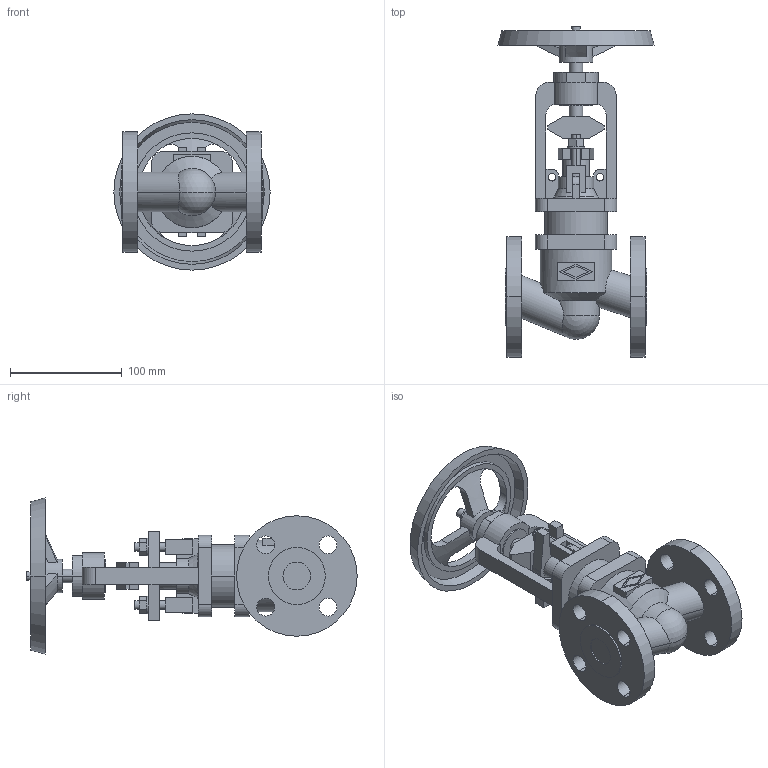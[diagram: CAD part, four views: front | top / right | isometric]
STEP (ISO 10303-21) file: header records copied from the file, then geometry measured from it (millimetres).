
FILE_DESCRIPTION(('OneSpaceDesigner STEP Export'),'2;1');
FILE_NAME('c000004222.stp','2010-04-30T 9:25:55',(''),(''),'OneSpace Designer STEP processor for AP214 (Solid Model)','OneSpace Modeling 15.50B 03-Nov-2007 (C) CoCreate Software GmbH','');
FILE_SCHEMA(('AUTOMOTIVE_DESIGN { 1 0 10303 214 1 1 1 1 }'));
Length unit declared in the file: millimetre
Products named in the file (1): 1
Bounding box: 140 x 295.9 x 140 mm (x, y, z)
Volume: 879950.1 mm3; surface area: 161543.1 mm2
Topology: 1 solids, 1 shells, 283 faces, 741 edges, 486 vertices
Faces by surface type: plane 148, cylinder 109, cone 20, torus 4, sphere 2
Entity records: 10908 total; most frequent: CARTESIAN_POINT 1952, ORIENTED_EDGE 1478, DIRECTION 1249, EDGE_CURVE 739, VERTEX_POINT 486, VECTOR 433, LINE 433, AXIS2_PLACEMENT_3D 408
